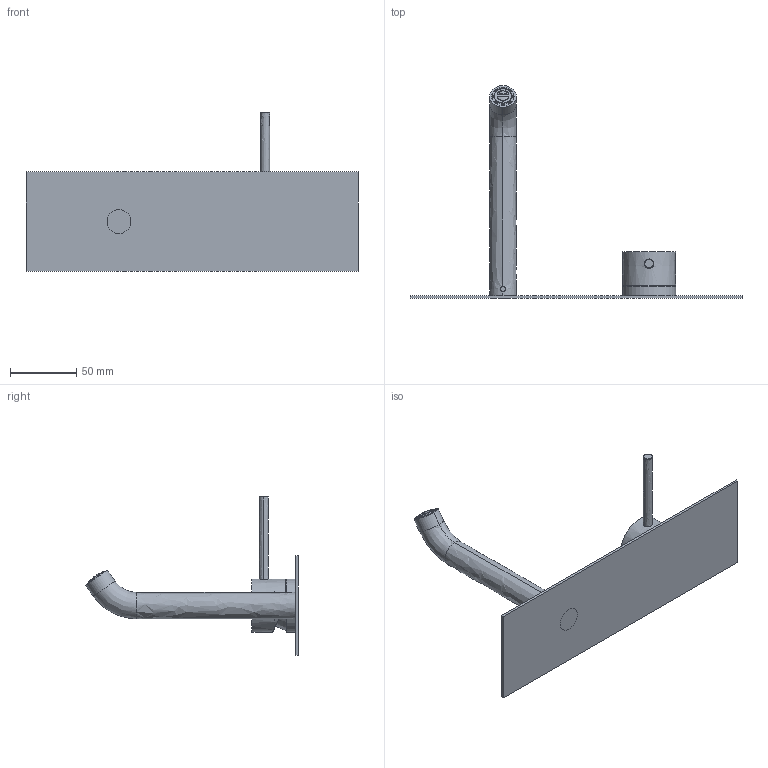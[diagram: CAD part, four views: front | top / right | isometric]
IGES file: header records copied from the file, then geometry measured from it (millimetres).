
Start section:  PTC IGES file: 69548b.igs
Global section: file name: 69548b.igs; native system: Creo Parametric by PTC Inc.; preprocessor: 2022014; author: carloff; organization: Unknown; date: 20251119.100558; units: millimetre
Bounding box: 250 x 160.19 x 119.6 mm (x, y, z)
Surface area: 70064.4 mm2 (no closed solid volume)
Topology: 0 solids, 0 shells, 1685 faces, 9998 edges, 9992 vertices
Faces by surface type: bspline 1413, revolution 269, extrusion 3
